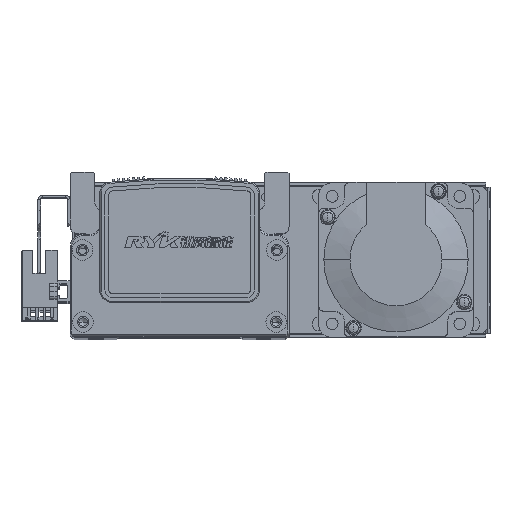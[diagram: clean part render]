
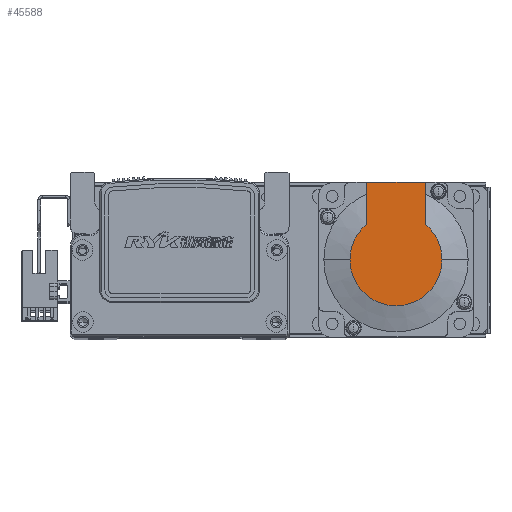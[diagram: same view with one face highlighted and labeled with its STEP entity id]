
A CAD part, top view. The second image highlights one B-rep face of the part: STEP entity #45588.
In plain terms, the highlighted planar face has unit normal (0, 0, 1) as drawn and (-1, 0, 0) by its records, which use the part's own axes.
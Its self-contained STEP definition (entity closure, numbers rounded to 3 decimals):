
#12657 = CIRCLE ( 'NONE', #30600, 17.881 ) ;
#12731 = LINE ( 'NONE', #29186, #12742 ) ;
#12742 = VECTOR ( 'NONE', #29188, 1000. ) ;
#12760 = LINE ( 'NONE', #29145, #12771 ) ;
#12771 = VECTOR ( 'NONE', #29157, 1000. ) ;
#12784 = VECTOR ( 'NONE', #29221, 1000. ) ;
#12814 = LINE ( 'NONE', #29227, #12784 ) ;
#14731 = VERTEX_POINT ( 'NONE', #23794 ) ;
#14746 = VERTEX_POINT ( 'NONE', #23779 ) ;
#14777 = VERTEX_POINT ( 'NONE', #23806 ) ;
#15012 = VERTEX_POINT ( 'NONE', #23987 ) ;
#15100 = VERTEX_POINT ( 'NONE', #24001 ) ;
#15112 = VERTEX_POINT ( 'NONE', #24020 ) ;
#15972 = DIRECTION ( 'NONE',  ( -1., 0., 0. ) ) ;
#15992 = CARTESIAN_POINT ( 'NONE',  ( -99., 0., 0. ) ) ;
#15995 = DIRECTION ( 'NONE',  ( 0., 0., -1. ) ) ;
#16214 = CARTESIAN_POINT ( 'NONE',  ( -99., 0., 0. ) ) ;
#16231 = DIRECTION ( 'NONE',  ( -1., 0., 0. ) ) ;
#16246 = DIRECTION ( 'NONE',  ( 0., 0., -1. ) ) ;
#23779 = CARTESIAN_POINT ( 'NONE',  ( -99., 0., -17.881 ) ) ;
#23794 = CARTESIAN_POINT ( 'NONE',  ( -99., 0., 17.881 ) ) ;
#23806 = CARTESIAN_POINT ( 'NONE',  ( -99., 13.735, 11.45 ) ) ;
#23987 = CARTESIAN_POINT ( 'NONE',  ( -99., 13.735, -11.45 ) ) ;
#24001 = CARTESIAN_POINT ( 'NONE',  ( -99., 30., -11.45 ) ) ;
#24020 = CARTESIAN_POINT ( 'NONE',  ( -99., 30., 11.45 ) ) ;
#26793 = PLANE ( 'NONE',  #65817 ) ;
#26794 = CARTESIAN_POINT ( 'NONE',  ( -99., -8.941, 0. ) ) ;
#26796 = DIRECTION ( 'NONE',  ( -1., 0., 0. ) ) ;
#26826 = DIRECTION ( 'NONE',  ( 0., 0., 1. ) ) ;
#29091 = CARTESIAN_POINT ( 'NONE',  ( -99., 0., 0. ) ) ;
#29099 = DIRECTION ( 'NONE',  ( -1., 0., 0. ) ) ;
#29106 = DIRECTION ( 'NONE',  ( 0., 0., -1. ) ) ;
#29145 = CARTESIAN_POINT ( 'NONE',  ( -99., 0., 11.45 ) ) ;
#29157 = DIRECTION ( 'NONE',  ( 0., -1., 0. ) ) ;
#29186 = CARTESIAN_POINT ( 'NONE',  ( -99., 30., 25. ) ) ;
#29188 = DIRECTION ( 'NONE',  ( 0., 0., 1. ) ) ;
#29221 = DIRECTION ( 'NONE',  ( 0., -1., 0. ) ) ;
#29227 = CARTESIAN_POINT ( 'NONE',  ( -99., -8.941, -11.45 ) ) ;
#30600 = AXIS2_PLACEMENT_3D ( 'NONE', #29091, #29099, #29106 ) ;
#31217 = AXIS2_PLACEMENT_3D ( 'NONE', #15992, #15972, #15995 ) ;
#31291 = AXIS2_PLACEMENT_3D ( 'NONE', #16214, #16231, #16246 ) ;
#33097 = EDGE_CURVE ( 'NONE', #15012, #14746, #12657, .T. ) ;
#33127 = EDGE_CURVE ( 'NONE', #15112, #14777, #12760, .T. ) ;
#33144 = EDGE_CURVE ( 'NONE', #15100, #15112, #12731, .T. ) ;
#33161 = EDGE_CURVE ( 'NONE', #15100, #15012, #12814, .T. ) ;
#42472 = EDGE_CURVE ( 'NONE', #14731, #14777, #62132, .T. ) ;
#42665 = EDGE_CURVE ( 'NONE', #14746, #14731, #62231, .T. ) ;
#45588 = ADVANCED_FACE ( 'NONE', ( #62944 ), #26793, .T. ) ;
#62132 = CIRCLE ( 'NONE', #31217, 17.881 ) ;
#62231 = CIRCLE ( 'NONE', #31291, 17.881 ) ;
#62944 = FACE_OUTER_BOUND ( 'NONE', #65032, .T. ) ;
#65032 = EDGE_LOOP ( 'NONE', ( #67236, #67246, #67195, #67206, #67225, #67248 ) ) ;
#65817 = AXIS2_PLACEMENT_3D ( 'NONE', #26794, #26796, #26826 ) ;
#67195 = ORIENTED_EDGE ( 'NONE', *, *, #42665, .T. ) ;
#67206 = ORIENTED_EDGE ( 'NONE', *, *, #42472, .T. ) ;
#67225 = ORIENTED_EDGE ( 'NONE', *, *, #33127, .F. ) ;
#67236 = ORIENTED_EDGE ( 'NONE', *, *, #33161, .T. ) ;
#67246 = ORIENTED_EDGE ( 'NONE', *, *, #33097, .T. ) ;
#67248 = ORIENTED_EDGE ( 'NONE', *, *, #33144, .F. ) ;
